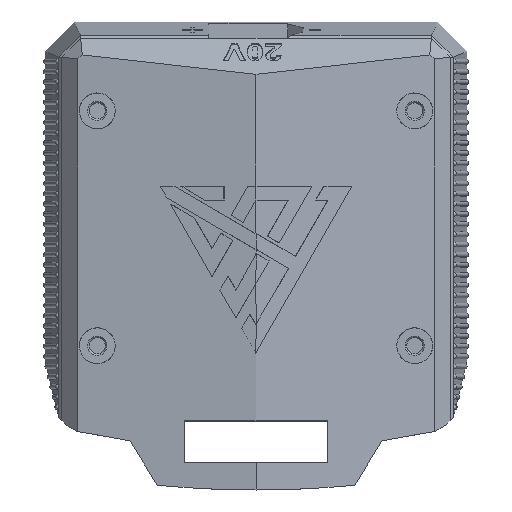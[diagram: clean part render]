
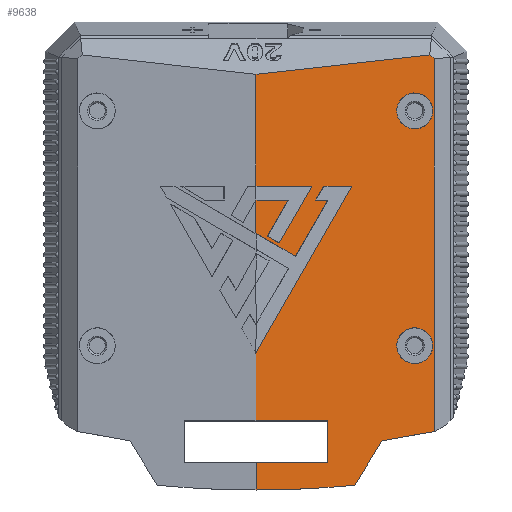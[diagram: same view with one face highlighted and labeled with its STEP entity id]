
A CAD part, top view. The second image highlights one B-rep face of the part: STEP entity #9638.
In plain terms, the highlighted planar face has unit normal (0.111, 0, 0.994).
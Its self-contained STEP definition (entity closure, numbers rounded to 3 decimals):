
#18=ELLIPSE('',#10618,171.612,170.556);
#19=ELLIPSE('',#10619,3.019,3.);
#20=ELLIPSE('',#10620,3.019,3.);
#500=FACE_BOUND('',#1638,.T.);
#501=FACE_BOUND('',#1639,.T.);
#656=PLANE('',#10617);
#1109=FACE_OUTER_BOUND('',#1637,.T.);
#1637=EDGE_LOOP('',(#8699,#8700,#8701,#8702,#8703,#8704,#8705,#8706,#8707,
#8708,#8709,#8710,#8711,#8712,#8713,#8714,#8715,#8716,#8717,#8718,#8719,
#8720,#8721,#8722));
#1638=EDGE_LOOP('',(#8723));
#1639=EDGE_LOOP('',(#8724));
#2266=LINE('',#16206,#3060);
#2290=LINE('',#16255,#3084);
#2298=LINE('',#16270,#3092);
#2300=LINE('',#16274,#3094);
#2302=LINE('',#16278,#3096);
#2304=LINE('',#16281,#3098);
#2329=LINE('',#16331,#3123);
#2335=LINE('',#16343,#3129);
#2341=LINE('',#16357,#3135);
#2345=LINE('',#16364,#3139);
#2379=LINE('',#16439,#3173);
#2382=LINE('',#16444,#3176);
#2384=LINE('',#16448,#3178);
#2386=LINE('',#16452,#3180);
#2388=LINE('',#16455,#3182);
#2392=LINE('',#16464,#3186);
#2393=LINE('',#16466,#3187);
#2394=LINE('',#16467,#3188);
#2395=LINE('',#16471,#3189);
#2396=LINE('',#16473,#3190);
#2397=LINE('',#16475,#3191);
#2398=LINE('',#16477,#3192);
#2399=LINE('',#16478,#3193);
#3060=VECTOR('',#12857,10.);
#3084=VECTOR('',#12889,10.);
#3092=VECTOR('',#12903,10.);
#3094=VECTOR('',#12907,10.);
#3096=VECTOR('',#12911,10.);
#3098=VECTOR('',#12915,10.);
#3123=VECTOR('',#12960,10.);
#3129=VECTOR('',#12966,10.);
#3135=VECTOR('',#12974,10.);
#3139=VECTOR('',#12978,10.);
#3173=VECTOR('',#13036,10.);
#3176=VECTOR('',#13041,10.);
#3178=VECTOR('',#13045,10.);
#3180=VECTOR('',#13049,10.);
#3182=VECTOR('',#13053,10.);
#3186=VECTOR('',#13065,10.);
#3187=VECTOR('',#13066,10.);
#3188=VECTOR('',#13067,10.);
#3189=VECTOR('',#13070,10.);
#3190=VECTOR('',#13071,10.);
#3191=VECTOR('',#13072,10.);
#3192=VECTOR('',#13073,10.);
#3193=VECTOR('',#13074,10.);
#4600=VERTEX_POINT('',#16203);
#4601=VERTEX_POINT('',#16205);
#4621=VERTEX_POINT('',#16253);
#4622=VERTEX_POINT('',#16254);
#4626=VERTEX_POINT('',#16269);
#4627=VERTEX_POINT('',#16273);
#4628=VERTEX_POINT('',#16277);
#4643=VERTEX_POINT('',#16330);
#4648=VERTEX_POINT('',#16340);
#4649=VERTEX_POINT('',#16342);
#4655=VERTEX_POINT('',#16354);
#4656=VERTEX_POINT('',#16356);
#4659=VERTEX_POINT('',#16362);
#4688=VERTEX_POINT('',#16438);
#4689=VERTEX_POINT('',#16443);
#4690=VERTEX_POINT('',#16447);
#4691=VERTEX_POINT('',#16451);
#4692=VERTEX_POINT('',#16463);
#4693=VERTEX_POINT('',#16465);
#4694=VERTEX_POINT('',#16468);
#4695=VERTEX_POINT('',#16470);
#4696=VERTEX_POINT('',#16472);
#4697=VERTEX_POINT('',#16474);
#4698=VERTEX_POINT('',#16476);
#4699=VERTEX_POINT('',#16479);
#4700=VERTEX_POINT('',#16481);
#5933=EDGE_CURVE('',#4601,#4600,#2266,.T.);
#5957=EDGE_CURVE('',#4621,#4622,#2290,.T.);
#5965=EDGE_CURVE('',#4626,#4601,#2298,.T.);
#5967=EDGE_CURVE('',#4627,#4626,#2300,.T.);
#5969=EDGE_CURVE('',#4628,#4627,#2302,.T.);
#5971=EDGE_CURVE('',#4622,#4628,#2304,.T.);
#5996=EDGE_CURVE('',#4621,#4643,#2329,.T.);
#6002=EDGE_CURVE('',#4648,#4649,#2335,.T.);
#6009=EDGE_CURVE('',#4655,#4656,#2341,.T.);
#6013=EDGE_CURVE('',#4659,#4600,#2345,.T.);
#6049=EDGE_CURVE('',#4688,#4643,#2379,.T.);
#6052=EDGE_CURVE('',#4689,#4688,#2382,.T.);
#6054=EDGE_CURVE('',#4690,#4689,#2384,.T.);
#6056=EDGE_CURVE('',#4691,#4690,#2386,.T.);
#6058=EDGE_CURVE('',#4648,#4691,#2388,.T.);
#6062=EDGE_CURVE('',#4692,#4659,#2392,.T.);
#6063=EDGE_CURVE('',#4693,#4692,#2393,.T.);
#6064=EDGE_CURVE('',#4656,#4693,#2394,.T.);
#6065=EDGE_CURVE('',#4694,#4655,#18,.T.);
#6066=EDGE_CURVE('',#4695,#4694,#2395,.T.);
#6067=EDGE_CURVE('',#4696,#4695,#2396,.T.);
#6068=EDGE_CURVE('',#4696,#4697,#2397,.T.);
#6069=EDGE_CURVE('',#4697,#4698,#2398,.T.);
#6070=EDGE_CURVE('',#4698,#4649,#2399,.T.);
#6071=EDGE_CURVE('',#4699,#4699,#19,.T.);
#6072=EDGE_CURVE('',#4700,#4700,#20,.T.);
#8699=ORIENTED_EDGE('',*,*,#5933,.T.);
#8700=ORIENTED_EDGE('',*,*,#6013,.F.);
#8701=ORIENTED_EDGE('',*,*,#6062,.F.);
#8702=ORIENTED_EDGE('',*,*,#6063,.F.);
#8703=ORIENTED_EDGE('',*,*,#6064,.F.);
#8704=ORIENTED_EDGE('',*,*,#6009,.F.);
#8705=ORIENTED_EDGE('',*,*,#6065,.F.);
#8706=ORIENTED_EDGE('',*,*,#6066,.F.);
#8707=ORIENTED_EDGE('',*,*,#6067,.F.);
#8708=ORIENTED_EDGE('',*,*,#6068,.T.);
#8709=ORIENTED_EDGE('',*,*,#6069,.T.);
#8710=ORIENTED_EDGE('',*,*,#6070,.T.);
#8711=ORIENTED_EDGE('',*,*,#6002,.F.);
#8712=ORIENTED_EDGE('',*,*,#6058,.T.);
#8713=ORIENTED_EDGE('',*,*,#6056,.T.);
#8714=ORIENTED_EDGE('',*,*,#6054,.T.);
#8715=ORIENTED_EDGE('',*,*,#6052,.T.);
#8716=ORIENTED_EDGE('',*,*,#6049,.T.);
#8717=ORIENTED_EDGE('',*,*,#5996,.F.);
#8718=ORIENTED_EDGE('',*,*,#5957,.T.);
#8719=ORIENTED_EDGE('',*,*,#5971,.T.);
#8720=ORIENTED_EDGE('',*,*,#5969,.T.);
#8721=ORIENTED_EDGE('',*,*,#5967,.T.);
#8722=ORIENTED_EDGE('',*,*,#5965,.T.);
#8723=ORIENTED_EDGE('',*,*,#6071,.T.);
#8724=ORIENTED_EDGE('',*,*,#6072,.T.);
#9638=ADVANCED_FACE('',(#1109,#500,#501),#656,.F.);
#10617=AXIS2_PLACEMENT_3D('',#16462,#13063,#13064);
#10618=AXIS2_PLACEMENT_3D('',#16469,#13068,#13069);
#10619=AXIS2_PLACEMENT_3D('',#16480,#13075,#13076);
#10620=AXIS2_PLACEMENT_3D('',#16482,#13077,#13078);
#12857=DIRECTION('',(-0.497,-0.866,0.055));
#12889=DIRECTION('',(0.861,-0.5,-0.096));
#12903=DIRECTION('',(0.994,0.,-0.111));
#12907=DIRECTION('',(0.497,0.866,-0.055));
#12911=DIRECTION('',(-0.994,0.,0.111));
#12915=DIRECTION('',(0.497,0.866,-0.055));
#12960=DIRECTION('',(0.,1.,0.));
#12966=DIRECTION('',(0.,1.,0.));
#12974=DIRECTION('',(0.,1.,0.));
#12978=DIRECTION('',(0.,1.,0.));
#13036=DIRECTION('',(-0.994,0.,0.111));
#13041=DIRECTION('',(0.497,0.866,-0.055));
#13045=DIRECTION('',(-0.861,0.5,0.096));
#13049=DIRECTION('',(-0.497,-0.866,0.055));
#13053=DIRECTION('',(0.994,0.,-0.111));
#13063=DIRECTION('center_axis',(-0.111,0.,
-0.994));
#13064=DIRECTION('ref_axis',(-0.994,0.,0.111));
#13065=DIRECTION('',(-0.994,0.,0.111));
#13066=DIRECTION('',(0.,1.,0.));
#13067=DIRECTION('',(0.994,0.,-0.111));
#13068=DIRECTION('center_axis',(-0.111,0.,
-0.994));
#13069=DIRECTION('ref_axis',(-0.994,0.,0.111));
#13070=DIRECTION('',(-0.525,-0.849,0.059));
#13071=DIRECTION('',(-0.979,-0.174,0.109));
#13072=DIRECTION('',(0.,1.,0.));
#13073=DIRECTION('',(-0.749,0.658,0.083));
#13074=DIRECTION('',(-0.988,-0.11,0.11));
#13075=DIRECTION('center_axis',(-0.111,0.,
-0.994));
#13076=DIRECTION('ref_axis',(0.994,0.,-0.111));
#13077=DIRECTION('center_axis',(-0.111,0.,
-0.994));
#13078=DIRECTION('ref_axis',(0.994,0.,-0.111));
#16203=CARTESIAN_POINT('',(0.,15.208,15.6));
#16205=CARTESIAN_POINT('',(15.955,43.015,13.822));
#16206=CARTESIAN_POINT('',(19.096,48.489,13.472));
#16253=CARTESIAN_POINT('',(0.,35.084,15.6));
#16254=CARTESIAN_POINT('',(6.559,31.274,14.869));
#16255=CARTESIAN_POINT('',(5.709,31.768,14.964));
#16269=CARTESIAN_POINT('',(11.302,43.015,14.34));
#16270=CARTESIAN_POINT('',(21.714,43.015,13.18));
#16273=CARTESIAN_POINT('',(9.972,40.698,14.489));
#16274=CARTESIAN_POINT('',(18.681,55.875,13.518));
#16277=CARTESIAN_POINT('',(11.967,40.698,14.266));
#16278=CARTESIAN_POINT('',(20.385,40.698,13.328));
#16281=CARTESIAN_POINT('',(18.741,52.505,13.511));
#16330=CARTESIAN_POINT('',(0.,40.698,15.6));
#16331=CARTESIAN_POINT('',(0.,49.13,15.6));
#16340=CARTESIAN_POINT('',(0.,43.015,15.6));
#16342=CARTESIAN_POINT('',(0.,61.729,15.6));
#16343=CARTESIAN_POINT('',(0.,49.13,15.6));
#16354=CARTESIAN_POINT('',(0.,-7.8,15.6));
#16356=CARTESIAN_POINT('',(0.,-3.25,15.6));
#16357=CARTESIAN_POINT('',(0.,49.13,15.6));
#16362=CARTESIAN_POINT('',(0.,3.75,15.6));
#16364=CARTESIAN_POINT('',(0.,49.13,15.6));
#16438=CARTESIAN_POINT('',(5.318,40.698,15.007));
#16439=CARTESIAN_POINT('',(16.23,40.698,13.791));
#16443=CARTESIAN_POINT('',(1.861,34.672,15.393));
#16444=CARTESIAN_POINT('',(13.412,54.803,14.105));
#16447=CARTESIAN_POINT('',(3.855,33.513,15.17));
#16448=CARTESIAN_POINT('',(5.642,32.475,14.971));
#16451=CARTESIAN_POINT('',(9.307,43.015,14.563));
#16452=CARTESIAN_POINT('',(15.905,54.513,13.827));
#16455=CARTESIAN_POINT('',(17.227,43.015,13.68));
#16462=CARTESIAN_POINT('Origin',(29.8,68.106,12.279));
#16463=CARTESIAN_POINT('',(12.,3.75,14.262));
#16464=CARTESIAN_POINT('',(9.304,3.75,14.563));
#16465=CARTESIAN_POINT('',(12.,-3.25,14.262));
#16466=CARTESIAN_POINT('',(12.,35.928,14.262));
#16467=CARTESIAN_POINT('',(21.157,-3.25,13.242));
#16468=CARTESIAN_POINT('',(16.5,-7.,13.761));
#16469=CARTESIAN_POINT('Origin',(0.,162.756,
15.6));
#16470=CARTESIAN_POINT('',(21.106,0.443,13.248));
#16471=CARTESIAN_POINT('',(35.168,23.167,11.68));
#16472=CARTESIAN_POINT('',(29.8,1.986,12.279));
#16473=CARTESIAN_POINT('',(31.268,2.246,12.115));
#16474=CARTESIAN_POINT('',(29.8,64.326,12.279));
#16475=CARTESIAN_POINT('',(29.8,68.106,12.279));
#16476=CARTESIAN_POINT('',(29.069,64.968,12.36));
#16477=CARTESIAN_POINT('',(27.887,66.007,12.492));
#16478=CARTESIAN_POINT('',(-2.131,61.491,15.838));
#16479=CARTESIAN_POINT('',(23.55,16.331,12.975));
#16480=CARTESIAN_POINT('Origin',(26.55,16.331,12.641));
#16481=CARTESIAN_POINT('',(23.55,55.606,12.975));
#16482=CARTESIAN_POINT('Origin',(26.55,55.606,12.641));
